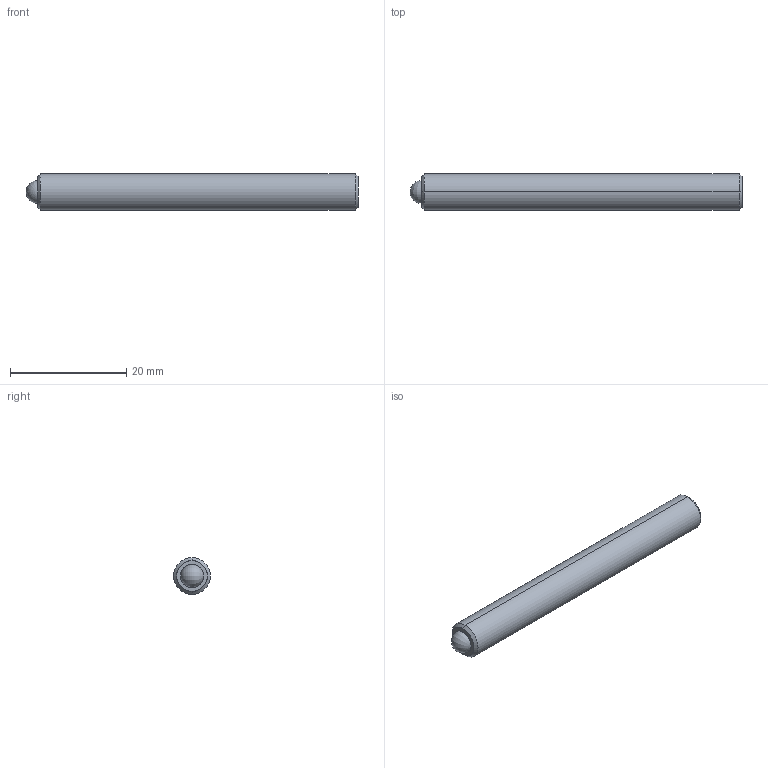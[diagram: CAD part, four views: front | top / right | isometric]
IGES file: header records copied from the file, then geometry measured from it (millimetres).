
Start section: SolidWorks IGES file using analytic representation for surfaces
Global section: file name: C:\Users\workpc\Desktop\KMA Solidworks\TS250-100 Series\TS250-100-2250.IGS; native system: SolidWorks 2013; preprocessor: SolidWorks 2013; author: workpc; date: 130213.084919; units: inch
Bounding box: 57.15 x 6.35 x 6.35 mm (x, y, z)
Surface area: 1244.3 mm2 (no closed solid volume)
Topology: 0 solids, 0 shells, 20 faces, 204 edges, 200 vertices
Faces by surface type: revolution 10, bspline 10
